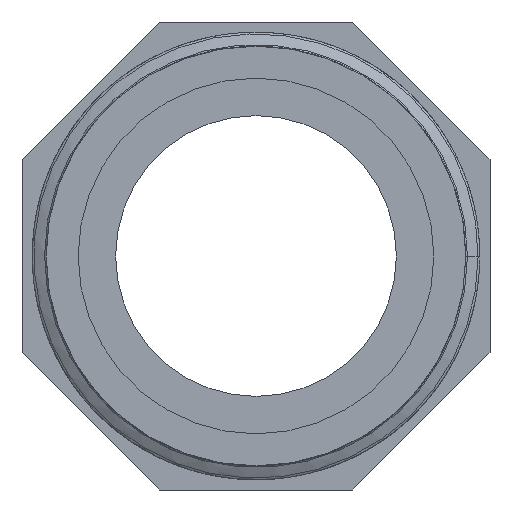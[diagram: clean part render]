
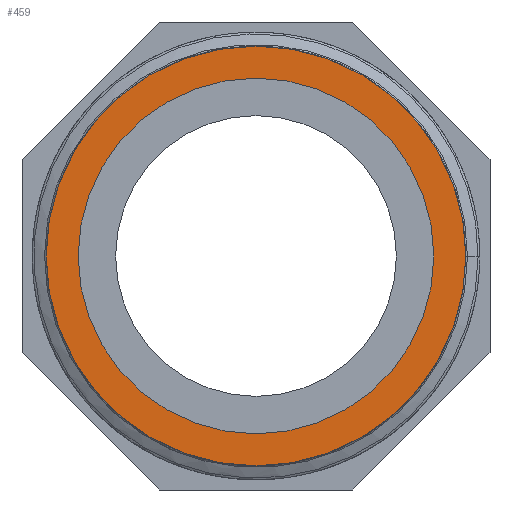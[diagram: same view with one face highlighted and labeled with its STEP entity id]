
A CAD part, front view. The second image highlights one B-rep face of the part: STEP entity #459.
In plain terms, the highlighted planar face has unit normal (0, -1, 0).
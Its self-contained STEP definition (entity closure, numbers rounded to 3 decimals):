
#21=FACE_BOUND('',#100,.T.);
#29=PLANE('',#490);
#49=CIRCLE('',#487,19.);
#50=CIRCLE('',#489,22.423);
#68=FACE_OUTER_BOUND('',#99,.T.);
#99=EDGE_LOOP('',(#367));
#100=EDGE_LOOP('',(#368));
#208=VERTEX_POINT('',#2955);
#224=VERTEX_POINT('',#8065);
#278=EDGE_CURVE('',#224,#224,#49,.T.);
#279=EDGE_CURVE('',#208,#208,#50,.T.);
#367=ORIENTED_EDGE('',*,*,#279,.T.);
#368=ORIENTED_EDGE('',*,*,#278,.T.);
#459=ADVANCED_FACE('',(#68,#21),#29,.F.);
#487=AXIS2_PLACEMENT_3D('',#8066,#538,#539);
#489=AXIS2_PLACEMENT_3D('',#8068,#542,#543);
#490=AXIS2_PLACEMENT_3D('',#8069,#544,#545);
#538=DIRECTION('center_axis',(0.,1.,0.));
#539=DIRECTION('ref_axis',(-1.,0.,0.));
#542=DIRECTION('center_axis',(0.,-1.,0.));
#543=DIRECTION('ref_axis',(-1.,0.,0.));
#544=DIRECTION('center_axis',(0.,1.,0.));
#545=DIRECTION('ref_axis',(0.,0.,1.));
#2955=CARTESIAN_POINT('',(22.423,-29.,0.));
#8065=CARTESIAN_POINT('',(19.,-29.,0.));
#8066=CARTESIAN_POINT('Origin',(0.,-29.,0.));
#8068=CARTESIAN_POINT('Origin',(0.,-29.,0.));
#8069=CARTESIAN_POINT('Origin',(0.,-29.,0.));
